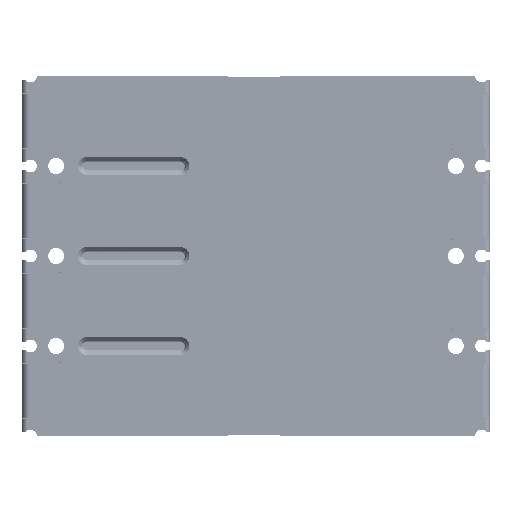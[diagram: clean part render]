
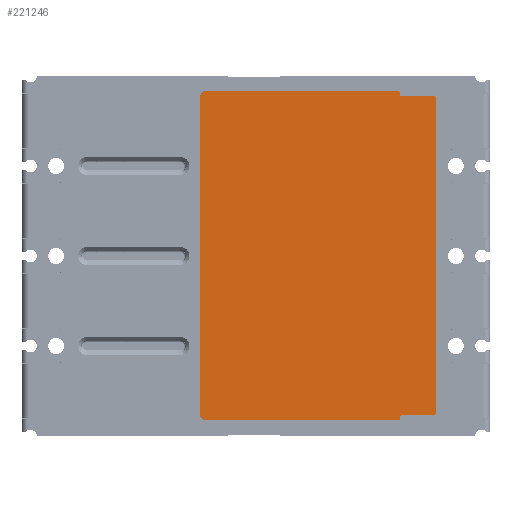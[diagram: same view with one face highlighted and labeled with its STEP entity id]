
A CAD part, front view. The second image highlights one B-rep face of the part: STEP entity #221246.
In plain terms, the highlighted planar face has unit normal (0, -1, 0) as drawn and (0, 0, 1) by its records, which use the part's own axes.
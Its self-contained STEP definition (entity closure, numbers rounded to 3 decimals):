
#220823=CARTESIAN_POINT('',(-44.25,-1.5,0.5));
#220824=DIRECTION('',(0.,0.,-1.));
#220825=DIRECTION('',(-1.,0.,0.));
#220826=AXIS2_PLACEMENT_3D('',#220823,#220824,#220825);
#220828=DIRECTION('',(1.,0.,0.));
#220829=VECTOR('',#220828,88.5);
#220830=CARTESIAN_POINT('',(-44.25,0.,0.5));
#220831=LINE('',#220830,#220829);
#220832=CARTESIAN_POINT('',(44.25,-1.5,0.5));
#220833=DIRECTION('',(0.,0.,-1.));
#220834=DIRECTION('',(0.,1.,0.));
#220835=AXIS2_PLACEMENT_3D('',#220832,#220833,#220834);
#220837=DIRECTION('',(0.,-1.,0.));
#220838=VECTOR('',#220837,53.5);
#220839=CARTESIAN_POINT('',(45.75,-1.5,0.5));
#220840=LINE('',#220839,#220838);
#220841=CARTESIAN_POINT('',(45.25,-55.,0.5));
#220842=DIRECTION('',(0.,0.,-1.));
#220843=DIRECTION('',(1.,0.,0.));
#220844=AXIS2_PLACEMENT_3D('',#220841,#220842,#220843);
#220846=DIRECTION('',(-1.,0.,0.));
#220847=VECTOR('',#220846,0.5);
#220848=CARTESIAN_POINT('',(45.25,-55.5,0.5));
#220849=LINE('',#220848,#220847);
#220850=CARTESIAN_POINT('',(44.75,-56.,0.5));
#220851=DIRECTION('',(0.,0.,1.));
#220852=DIRECTION('',(0.,1.,0.));
#220853=AXIS2_PLACEMENT_3D('',#220850,#220851,#220852);
#220855=DIRECTION('',(0.,-1.,0.));
#220856=VECTOR('',#220855,9.);
#220857=CARTESIAN_POINT('',(44.25,-56.,0.5));
#220858=LINE('',#220857,#220856);
#220859=CARTESIAN_POINT('',(43.75,-65.,0.5));
#220860=DIRECTION('',(0.,0.,-1.));
#220861=DIRECTION('',(1.,0.,0.));
#220862=AXIS2_PLACEMENT_3D('',#220859,#220860,#220861);
#220864=DIRECTION('',(-1.,0.,0.));
#220865=VECTOR('',#220864,87.5);
#220866=CARTESIAN_POINT('',(43.75,-65.5,0.5));
#220867=LINE('',#220866,#220865);
#220868=CARTESIAN_POINT('',(-43.75,-65.,0.5));
#220869=DIRECTION('',(0.,0.,-1.));
#220870=DIRECTION('',(0.,-1.,0.));
#220871=AXIS2_PLACEMENT_3D('',#220868,#220869,#220870);
#220873=DIRECTION('',(0.,1.,0.));
#220874=VECTOR('',#220873,9.);
#220875=CARTESIAN_POINT('',(-44.25,-65.,0.5));
#220876=LINE('',#220875,#220874);
#220877=CARTESIAN_POINT('',(-44.75,-56.,0.5));
#220878=DIRECTION('',(0.,0.,1.));
#220879=DIRECTION('',(1.,0.,0.));
#220880=AXIS2_PLACEMENT_3D('',#220877,#220878,#220879);
#220882=DIRECTION('',(-1.,0.,0.));
#220883=VECTOR('',#220882,0.5);
#220884=CARTESIAN_POINT('',(-44.75,-55.5,0.5));
#220885=LINE('',#220884,#220883);
#220886=CARTESIAN_POINT('',(-45.25,-55.,0.5));
#220887=DIRECTION('',(0.,0.,-1.));
#220888=DIRECTION('',(0.,-1.,0.));
#220889=AXIS2_PLACEMENT_3D('',#220886,#220887,#220888);
#220891=DIRECTION('',(0.,1.,0.));
#220892=VECTOR('',#220891,53.5);
#220893=CARTESIAN_POINT('',(-45.75,-55.,0.5));
#220894=LINE('',#220893,#220892);
#220927=CARTESIAN_POINT('',(-44.25,0.,0.5));
#220928=VERTEX_POINT('',#220927);
#220929=CARTESIAN_POINT('',(-45.75,-1.5,0.5));
#220930=VERTEX_POINT('',#220929);
#220931=CARTESIAN_POINT('',(44.25,0.,0.5));
#220932=VERTEX_POINT('',#220931);
#220933=CARTESIAN_POINT('',(45.75,-1.5,0.5));
#220934=VERTEX_POINT('',#220933);
#220935=CARTESIAN_POINT('',(45.75,-55.,0.5));
#220936=VERTEX_POINT('',#220935);
#220937=CARTESIAN_POINT('',(45.25,-55.5,0.5));
#220938=VERTEX_POINT('',#220937);
#220939=CARTESIAN_POINT('',(44.75,-55.5,0.5));
#220940=VERTEX_POINT('',#220939);
#220941=CARTESIAN_POINT('',(44.25,-56.,0.5));
#220942=VERTEX_POINT('',#220941);
#220943=CARTESIAN_POINT('',(44.25,-65.,0.5));
#220944=VERTEX_POINT('',#220943);
#220945=CARTESIAN_POINT('',(43.75,-65.5,0.5));
#220946=VERTEX_POINT('',#220945);
#220947=CARTESIAN_POINT('',(-43.75,-65.5,0.5));
#220948=VERTEX_POINT('',#220947);
#220949=CARTESIAN_POINT('',(-44.25,-65.,0.5));
#220950=VERTEX_POINT('',#220949);
#220951=CARTESIAN_POINT('',(-44.25,-56.,0.5));
#220952=VERTEX_POINT('',#220951);
#220953=CARTESIAN_POINT('',(-44.75,-55.5,0.5));
#220954=VERTEX_POINT('',#220953);
#220955=CARTESIAN_POINT('',(-45.25,-55.5,0.5));
#220956=VERTEX_POINT('',#220955);
#220957=CARTESIAN_POINT('',(-45.75,-55.,0.5));
#220958=VERTEX_POINT('',#220957);
#221223=CARTESIAN_POINT('',(0.,0.,0.5));
#221224=DIRECTION('',(0.,0.,1.));
#221225=DIRECTION('',(1.,0.,0.));
#221226=AXIS2_PLACEMENT_3D('',#221223,#221224,#221225);
#221227=PLANE('',#221226);
#221228=ORIENTED_EDGE('',*,*,#221007,.T.);
#221229=ORIENTED_EDGE('',*,*,#221023,.T.);
#221230=ORIENTED_EDGE('',*,*,#221036,.T.);
#221231=ORIENTED_EDGE('',*,*,#221051,.T.);
#221232=ORIENTED_EDGE('',*,*,#221064,.T.);
#221233=ORIENTED_EDGE('',*,*,#221079,.T.);
#221234=ORIENTED_EDGE('',*,*,#221093,.T.);
#221235=ORIENTED_EDGE('',*,*,#221105,.T.);
#221236=ORIENTED_EDGE('',*,*,#221120,.T.);
#221237=ORIENTED_EDGE('',*,*,#221133,.T.);
#221238=ORIENTED_EDGE('',*,*,#221148,.T.);
#221239=ORIENTED_EDGE('',*,*,#221163,.T.);
#221240=ORIENTED_EDGE('',*,*,#221177,.T.);
#221241=ORIENTED_EDGE('',*,*,#221189,.T.);
#221242=ORIENTED_EDGE('',*,*,#221204,.T.);
#221243=ORIENTED_EDGE('',*,*,#221216,.T.);
#221244=EDGE_LOOP('',(#221228,#221229,#221230,#221231,#221232,#221233,#221234,
#221235,#221236,#221237,#221238,#221239,#221240,#221241,#221242,#221243));
#221245=FACE_OUTER_BOUND('',#221244,.F.);
#221246=ADVANCED_FACE('',(#221245),#221227,.T.);
#220827=CIRCLE('',#220826,1.5);
#220836=CIRCLE('',#220835,1.5);
#220845=CIRCLE('',#220844,0.5);
#220854=CIRCLE('',#220853,0.5);
#220863=CIRCLE('',#220862,0.5);
#220872=CIRCLE('',#220871,0.5);
#220881=CIRCLE('',#220880,0.5);
#220890=CIRCLE('',#220889,0.5);
#221007=EDGE_CURVE('',#220930,#220928,#220827,.T.);
#221023=EDGE_CURVE('',#220928,#220932,#220831,.T.);
#221036=EDGE_CURVE('',#220932,#220934,#220836,.T.);
#221051=EDGE_CURVE('',#220934,#220936,#220840,.T.);
#221064=EDGE_CURVE('',#220936,#220938,#220845,.T.);
#221079=EDGE_CURVE('',#220938,#220940,#220849,.T.);
#221093=EDGE_CURVE('',#220940,#220942,#220854,.T.);
#221105=EDGE_CURVE('',#220942,#220944,#220858,.T.);
#221120=EDGE_CURVE('',#220944,#220946,#220863,.T.);
#221133=EDGE_CURVE('',#220946,#220948,#220867,.T.);
#221148=EDGE_CURVE('',#220948,#220950,#220872,.T.);
#221163=EDGE_CURVE('',#220950,#220952,#220876,.T.);
#221177=EDGE_CURVE('',#220952,#220954,#220881,.T.);
#221189=EDGE_CURVE('',#220954,#220956,#220885,.T.);
#221204=EDGE_CURVE('',#220956,#220958,#220890,.T.);
#221216=EDGE_CURVE('',#220958,#220930,#220894,.T.);
